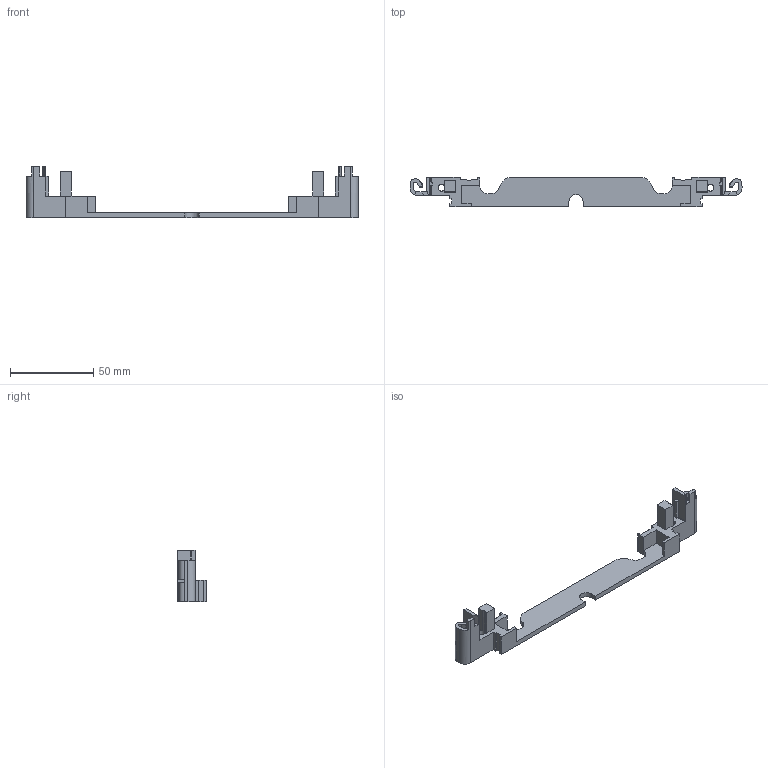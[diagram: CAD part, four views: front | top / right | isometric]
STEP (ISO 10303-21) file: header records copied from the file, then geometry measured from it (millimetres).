
FILE_DESCRIPTION (( 'STEP AP214' ), '1' );
FILE_NAME ('F121100282211_unten.step', '2010-10-19T14:19:00', ( 'grass' ), ( '' ), 'SwSTEP 2.0', 'SolidWorks 2010', '' );
FILE_SCHEMA (( 'AUTOMOTIVE_DESIGN' ));
Length unit declared in the file: millimetre
Products named in the file (1): F121100282211_unten
Bounding box: 200 x 18 x 31 mm (x, y, z)
Volume: 17651.3 mm3; surface area: 13773.4 mm2
Topology: 1 solids, 1 shells, 176 faces, 498 edges, 326 vertices
Faces by surface type: plane 131, cylinder 41, cone 4
Entity records: 5686 total; most frequent: CARTESIAN_POINT 1025, ORIENTED_EDGE 996, DIRECTION 930, EDGE_CURVE 498, LINE 404, VECTOR 404, VERTEX_POINT 326, AXIS2_PLACEMENT_3D 263
